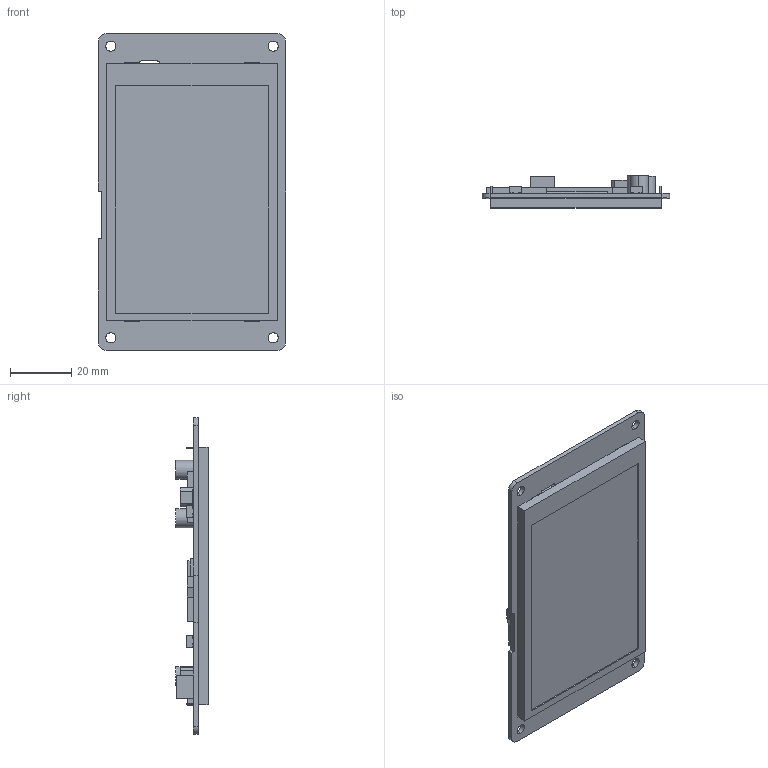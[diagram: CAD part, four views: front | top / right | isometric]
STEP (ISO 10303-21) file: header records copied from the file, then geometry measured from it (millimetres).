
FILE_DESCRIPTION((''),'2;1');
FILE_NAME('DMT48320C035-06WN','2018-07-28T',('Administrator'),(''),'PRO/ENGINEER BY PARAMETRIC TECHNOLOGY CORPORATION, 2008380','PRO/ENGINEER BY PARAMETRIC TECHNOLOGY CORPORATION, 2008380','');
FILE_SCHEMA(('CONFIG_CONTROL_DESIGN'));
Length unit declared in the file: millimetre
Products named in the file (1): DMT48320C035-06WN
Bounding box: 61.09 x 10.5 x 103.25 mm (x, y, z)
Volume: 26100 mm3; surface area: 16015.4 mm2
Topology: 1 solids, 1 shells, 211 faces, 594 edges, 393 vertices
Faces by surface type: plane 187, cylinder 22, extrusion 2
Entity records: 6982 total; most frequent: CARTESIAN_POINT 1282, ORIENTED_EDGE 1180, DIRECTION 1057, EDGE_CURVE 590, VECTOR 547, LINE 545, VERTEX_POINT 388, AXIS2_PLACEMENT_3D 255
